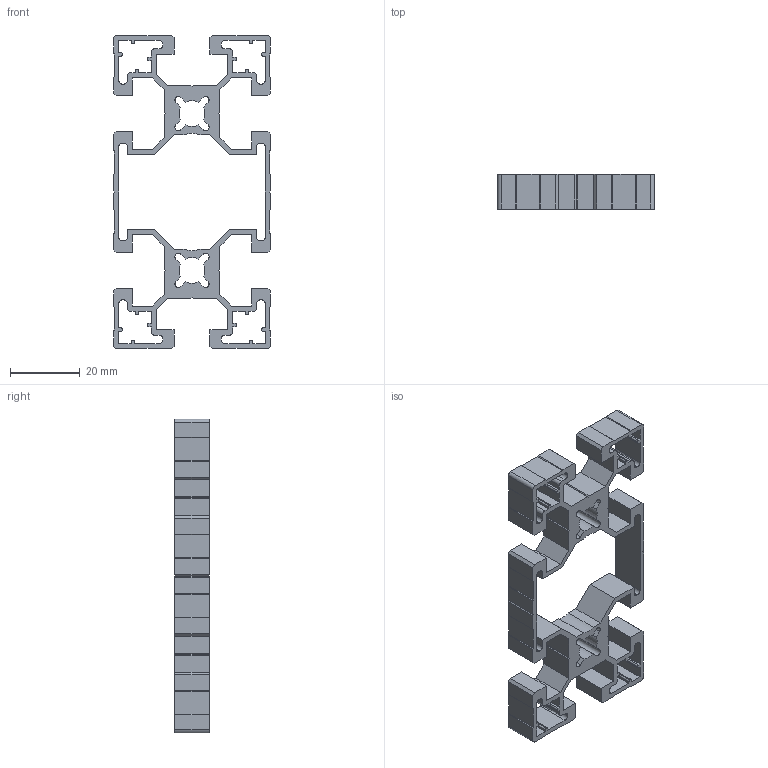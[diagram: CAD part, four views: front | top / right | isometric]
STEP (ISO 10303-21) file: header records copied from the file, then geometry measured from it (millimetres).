
FILE_DESCRIPTION((''),'2;1');
FILE_NAME('PR045090L','2002-12-27T',('Lipro doo'),('Lipro d.o.o.'),'PRO/ENGINEER BY PARAMETRIC TECHNOLOGY CORPORATION, 2001150','PRO/ENGINEER BY PARAMETRIC TECHNOLOGY CORPORATION, 2001150','');
FILE_SCHEMA(('CONFIG_CONTROL_DESIGN'));
Length unit declared in the file: millimetre
Products named in the file (1): PR045090L
Bounding box: 45 x 10 x 90 mm (x, y, z)
Volume: 10096.5 mm3; surface area: 12051.7 mm2
Topology: 1 solids, 1 shells, 370 faces, 1104 edges, 736 vertices
Faces by surface type: plane 284, cylinder 86
Entity records: 12406 total; most frequent: CARTESIAN_POINT 2210, ORIENTED_EDGE 2208, DIRECTION 2016, EDGE_CURVE 1104, VECTOR 932, LINE 932, VERTEX_POINT 736, AXIS2_PLACEMENT_3D 542
